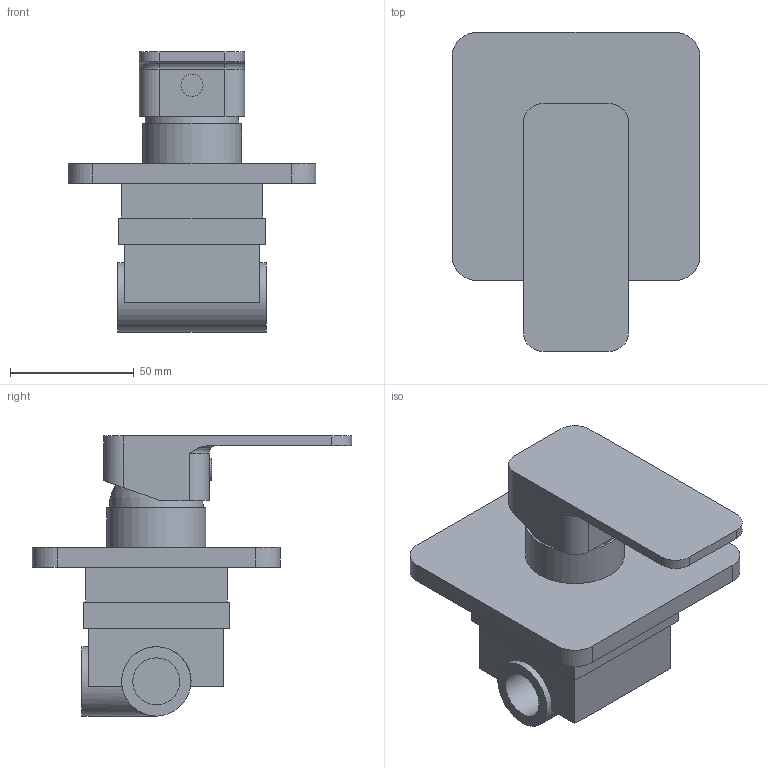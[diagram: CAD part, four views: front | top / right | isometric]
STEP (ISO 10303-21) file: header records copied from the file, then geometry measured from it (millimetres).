
FILE_DESCRIPTION(/* description */ ('LOFT Bateria natryskowa podtynkowa'),/* implementation_level */ '2;1');
FILE_NAME(/* name */ 'C:\Nextcloud\02_biblioteki_cad\Valvex\Projekt\PROJECTS\Eksport\ETAP 1\2454970\2454970.stp',/* time_stamp */ '2021-06-17T15:39:50+02:00',/* author */ ('Cadventure'),/* organization */ (''),/* preprocessor_version */ 'ST-DEVELOPER v18.1',/* originating_system */ 'Autodesk Inventor 2020',/* authorisation */ '');
FILE_SCHEMA (('AUTOMOTIVE_DESIGN { 1 0 10303 214 3 1 1 }'));
Length unit declared in the file: millimetre
Products named in the file (1): 2454970
Bounding box: 100 x 128.75 x 113 mm (x, y, z)
Volume: 323946.8 mm3; surface area: 63029.8 mm2
Topology: 3 solids, 3 shells, 64 faces, 162 edges, 111 vertices
Faces by surface type: plane 41, cylinder 20, torus 2, sphere 1
Full cylindrical faces by diameter (mm): 6 x2, 9 x1, 19 x3, 28 x2, 40 x1
Entity records: 2063 total; most frequent: CARTESIAN_POINT 355, DIRECTION 350, ORIENTED_EDGE 322, EDGE_CURVE 161, AXIS2_PLACEMENT_3D 126, VERTEX_POINT 111, LINE 98, VECTOR 98
